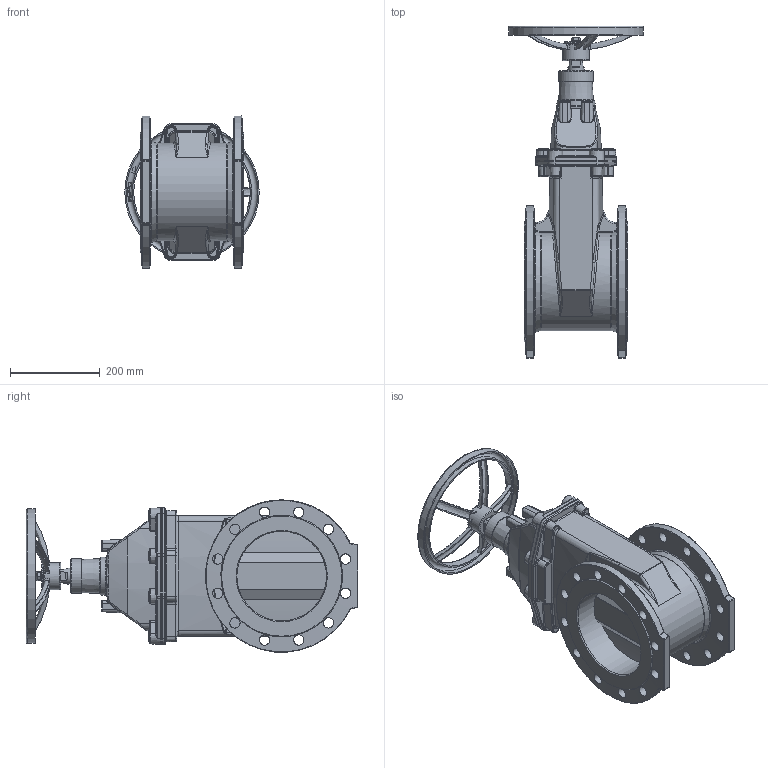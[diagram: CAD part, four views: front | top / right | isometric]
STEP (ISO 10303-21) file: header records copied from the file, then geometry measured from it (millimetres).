
FILE_DESCRIPTION (( 'STEP AP203' ), '1' );
FILE_NAME ('20.DN200.STEP', '2013-01-17T09:26:48', ( 'luca.saino' ), ( 'Hewlett-Packard Company' ), 'SwSTEP 2.0', 'SolidWorks 2012', '' );
FILE_SCHEMA (( 'CONFIG_CONTROL_DESIGN' ));
Length unit declared in the file: millimetre
Products named in the file (1): 20.DN200
Bounding box: 300 x 740 x 339.42 mm (x, y, z)
Volume: 16536515.1 mm3; surface area: 1045940.3 mm2
Topology: 1 solids, 29 shells, 1695 faces, 4006 edges, 2341 vertices
Faces by surface type: cylinder 472, plane 414, bspline 390, torus 247, cone 148, sphere 24
Full cylindrical faces by diameter (mm): 8 x2, 8.5 x9, 10 x9, 10.2 x8, 10.5 x1, 11 x1, 12 x8, 13 x8, 18 x8, 20 x1, 23 x24, 28.5 x8, 36 x2, 52 x1, 60 x1, 77 x1, 200 x2, 260 x1, 266 x1, 294 x1, 300 x1
Entity records: 71752 total; most frequent: CARTESIAN_POINT 37286, ORIENTED_EDGE 7292, DIRECTION 6679, EDGE_CURVE 3646, AXIS2_PLACEMENT_3D 2737, VERTEX_POINT 2244, EDGE_LOOP 2026, FACE_OUTER_BOUND 1840
